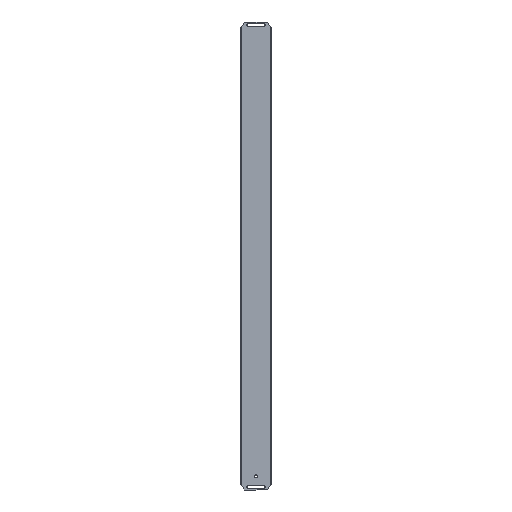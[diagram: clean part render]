
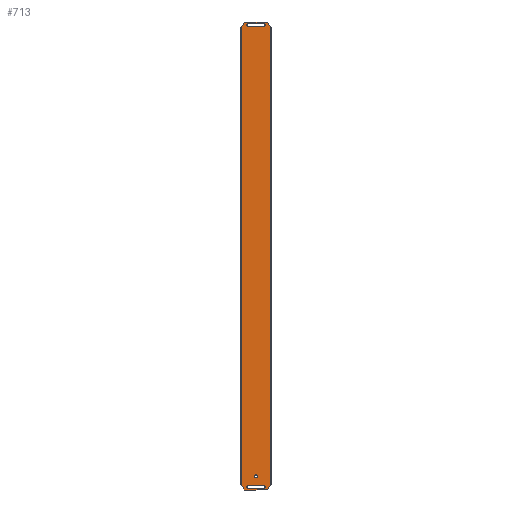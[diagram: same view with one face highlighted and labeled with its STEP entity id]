
A CAD part, front view. The second image highlights one B-rep face of the part: STEP entity #713.
In plain terms, the highlighted planar face has unit normal (0, -1, 0).
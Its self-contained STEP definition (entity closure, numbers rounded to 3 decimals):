
#11 = AXIS2_PLACEMENT_3D ( 'NONE', #730, #1135, #36 ) ;
#13 = LINE ( 'NONE', #422, #156 ) ;
#15 = ORIENTED_EDGE ( 'NONE', *, *, #1277, .T. ) ;
#18 = DIRECTION ( 'NONE',  ( 0., -1., 0. ) ) ;
#25 = VERTEX_POINT ( 'NONE', #399 ) ;
#28 = VECTOR ( 'NONE', #1209, 1000. ) ;
#36 = DIRECTION ( 'NONE',  ( 0., 0., -1. ) ) ;
#47 = VECTOR ( 'NONE', #340, 1000. ) ;
#51 = LINE ( 'NONE', #178, #70 ) ;
#53 = VERTEX_POINT ( 'NONE', #922 ) ;
#62 = ORIENTED_EDGE ( 'NONE', *, *, #666, .T. ) ;
#64 = LINE ( 'NONE', #887, #508 ) ;
#70 = VECTOR ( 'NONE', #587, 1000. ) ;
#79 = CARTESIAN_POINT ( 'NONE',  ( -15.55, -1.2, 501. ) ) ;
#93 = CIRCLE ( 'NONE', #681, 3.25 ) ;
#97 = CARTESIAN_POINT ( 'NONE',  ( 1.2, -1.2, -480.25 ) ) ;
#99 = LINE ( 'NONE', #79, #785 ) ;
#109 = DIRECTION ( 'NONE',  ( -1., 0., 0. ) ) ;
#112 = EDGE_CURVE ( 'NONE', #612, #700, #1111, .T. ) ;
#113 = CIRCLE ( 'NONE', #863, 3.25 ) ;
#132 = CARTESIAN_POINT ( 'NONE',  ( -23.745, -1.2, 510.25 ) ) ;
#139 = ORIENTED_EDGE ( 'NONE', *, *, #607, .T. ) ;
#154 = EDGE_CURVE ( 'NONE', #1206, #53, #760, .T. ) ;
#156 = VECTOR ( 'NONE', #1040, 1000. ) ;
#171 = EDGE_CURVE ( 'NONE', #1133, #571, #963, .T. ) ;
#172 = EDGE_CURVE ( 'NONE', #378, #1206, #948, .T. ) ;
#178 = CARTESIAN_POINT ( 'NONE',  ( 32.3, -1.2, -499.781 ) ) ;
#184 = CARTESIAN_POINT ( 'NONE',  ( 17.95, -1.2, -501. ) ) ;
#185 = AXIS2_PLACEMENT_3D ( 'NONE', #477, #661, #674 ) ;
#188 = CARTESIAN_POINT ( 'NONE',  ( -15.55, -1.2, -507.5 ) ) ;
#189 = LINE ( 'NONE', #698, #28 ) ;
#190 = ORIENTED_EDGE ( 'NONE', *, *, #428, .F. ) ;
#192 = VERTEX_POINT ( 'NONE', #269 ) ;
#202 = AXIS2_PLACEMENT_3D ( 'NONE', #652, #739, #1258 ) ;
#209 = AXIS2_PLACEMENT_3D ( 'NONE', #753, #18, #350 ) ;
#214 = CARTESIAN_POINT ( 'NONE',  ( -29.9, -1.2, -510.25 ) ) ;
#221 = VERTEX_POINT ( 'NONE', #574 ) ;
#223 = FACE_OUTER_BOUND ( 'NONE', #290, .T. ) ;
#241 = CARTESIAN_POINT ( 'NONE',  ( -29.9, -1.2, -499.781 ) ) ;
#244 = CARTESIAN_POINT ( 'NONE',  ( 32.3, -1.2, 499.781 ) ) ;
#254 = VECTOR ( 'NONE', #109, 1000. ) ;
#269 = CARTESIAN_POINT ( 'NONE',  ( 1.2, -1.2, -483.5 ) ) ;
#271 = ORIENTED_EDGE ( 'NONE', *, *, #1117, .T. ) ;
#290 = EDGE_LOOP ( 'NONE', ( #1068, #302, #314, #877, #575, #664, #190, #501 ) ) ;
#293 = VECTOR ( 'NONE', #626, 1000. ) ;
#302 = ORIENTED_EDGE ( 'NONE', *, *, #171, .T. ) ;
#310 = FACE_BOUND ( 'NONE', #789, .T. ) ;
#314 = ORIENTED_EDGE ( 'NONE', *, *, #822, .F. ) ;
#330 = EDGE_CURVE ( 'NONE', #1133, #400, #64, .T. ) ;
#340 = DIRECTION ( 'NONE',  ( -0.507, 0., 0.862 ) ) ;
#344 = LINE ( 'NONE', #244, #910 ) ;
#350 = DIRECTION ( 'NONE',  ( 0., 0., -1. ) ) ;
#362 = ORIENTED_EDGE ( 'NONE', *, *, #731, .F. ) ;
#363 = VECTOR ( 'NONE', #851, 1000. ) ;
#378 = VERTEX_POINT ( 'NONE', #456 ) ;
#389 = CARTESIAN_POINT ( 'NONE',  ( 26.145, -1.2, -510.25 ) ) ;
#399 = CARTESIAN_POINT ( 'NONE',  ( 32.3, -1.2, 499.781 ) ) ;
#400 = VERTEX_POINT ( 'NONE', #732 ) ;
#422 = CARTESIAN_POINT ( 'NONE',  ( -29.9, -1.2, -499.781 ) ) ;
#426 = DIRECTION ( 'NONE',  ( 0., 0., 1. ) ) ;
#428 = EDGE_CURVE ( 'NONE', #25, #1257, #344, .T. ) ;
#432 = LINE ( 'NONE', #545, #47 ) ;
#456 = CARTESIAN_POINT ( 'NONE',  ( -15.55, -1.2, 507.5 ) ) ;
#477 = CARTESIAN_POINT ( 'NONE',  ( 17.95, -1.2, 504.25 ) ) ;
#485 = CIRCLE ( 'NONE', #202, 3.25 ) ;
#490 = CARTESIAN_POINT ( 'NONE',  ( 32.3, -1.2, -499.781 ) ) ;
#501 = ORIENTED_EDGE ( 'NONE', *, *, #1082, .T. ) ;
#503 = CARTESIAN_POINT ( 'NONE',  ( -15.55, -1.2, -504.25 ) ) ;
#508 = VECTOR ( 'NONE', #711, 1000. ) ;
#516 = EDGE_LOOP ( 'NONE', ( #62, #15, #271, #775 ) ) ;
#517 = DIRECTION ( 'NONE',  ( -1., 0., 0. ) ) ;
#523 = PLANE ( 'NONE',  #209 ) ;
#525 = AXIS2_PLACEMENT_3D ( 'NONE', #97, #1138, #646 ) ;
#528 = DIRECTION ( 'NONE',  ( 0.507, 0., -0.862 ) ) ;
#540 = LINE ( 'NONE', #214, #293 ) ;
#545 = CARTESIAN_POINT ( 'NONE',  ( 32.3, -1.2, 499.781 ) ) ;
#557 = DIRECTION ( 'NONE',  ( 0., 0., -1. ) ) ;
#571 = VERTEX_POINT ( 'NONE', #1289 ) ;
#574 = CARTESIAN_POINT ( 'NONE',  ( -29.9, -1.2, -499.781 ) ) ;
#575 = ORIENTED_EDGE ( 'NONE', *, *, #962, .F. ) ;
#587 = DIRECTION ( 'NONE',  ( 0.507, 0., 0.862 ) ) ;
#598 = CARTESIAN_POINT ( 'NONE',  ( -23.745, -1.2, -510.25 ) ) ;
#600 = EDGE_LOOP ( 'NONE', ( #362, #605 ) ) ;
#605 = ORIENTED_EDGE ( 'NONE', *, *, #946, .F. ) ;
#607 = EDGE_CURVE ( 'NONE', #53, #1075, #99, .T. ) ;
#612 = VERTEX_POINT ( 'NONE', #622 ) ;
#622 = CARTESIAN_POINT ( 'NONE',  ( 17.95, -1.2, -507.5 ) ) ;
#626 = DIRECTION ( 'NONE',  ( -1., 0., 0. ) ) ;
#639 = LINE ( 'NONE', #241, #1031 ) ;
#646 = DIRECTION ( 'NONE',  ( 0., 0., -1. ) ) ;
#652 = CARTESIAN_POINT ( 'NONE',  ( 17.95, -1.2, -504.25 ) ) ;
#661 = DIRECTION ( 'NONE',  ( 0., 1., 0. ) ) ;
#664 = ORIENTED_EDGE ( 'NONE', *, *, #1243, .T. ) ;
#666 = EDGE_CURVE ( 'NONE', #700, #1101, #93, .T. ) ;
#674 = DIRECTION ( 'NONE',  ( 0., 0., 1. ) ) ;
#679 = VERTEX_POINT ( 'NONE', #598 ) ;
#681 = AXIS2_PLACEMENT_3D ( 'NONE', #503, #895, #913 ) ;
#686 = CARTESIAN_POINT ( 'NONE',  ( 17.95, -1.2, 507.5 ) ) ;
#698 = CARTESIAN_POINT ( 'NONE',  ( -15.55, -1.2, -501. ) ) ;
#700 = VERTEX_POINT ( 'NONE', #1114 ) ;
#711 = DIRECTION ( 'NONE',  ( 1., 0., 0. ) ) ;
#713 = ADVANCED_FACE ( 'NONE', ( #1223, #310, #716, #223 ), #523, .T. ) ;
#716 = FACE_BOUND ( 'NONE', #516, .T. ) ;
#730 = CARTESIAN_POINT ( 'NONE',  ( 1.2, -1.2, -480.25 ) ) ;
#731 = EDGE_CURVE ( 'NONE', #1199, #192, #1292, .T. ) ;
#732 = CARTESIAN_POINT ( 'NONE',  ( 26.145, -1.2, 510.25 ) ) ;
#739 = DIRECTION ( 'NONE',  ( 0., 1., 0. ) ) ;
#753 = CARTESIAN_POINT ( 'NONE',  ( 0., -1.2, 0. ) ) ;
#760 = CIRCLE ( 'NONE', #185, 3.25 ) ;
#772 = CARTESIAN_POINT ( 'NONE',  ( -29.9, -1.2, 499.781 ) ) ;
#775 = ORIENTED_EDGE ( 'NONE', *, *, #112, .T. ) ;
#785 = VECTOR ( 'NONE', #517, 1000. ) ;
#789 = EDGE_LOOP ( 'NONE', ( #1013, #987, #1211, #139 ) ) ;
#822 = EDGE_CURVE ( 'NONE', #221, #571, #13, .T. ) ;
#826 = CARTESIAN_POINT ( 'NONE',  ( -15.55, -1.2, 504.25 ) ) ;
#835 = DIRECTION ( 'NONE',  ( 0., 1., 0. ) ) ;
#849 = CARTESIAN_POINT ( 'NONE',  ( -15.55, -1.2, -501. ) ) ;
#851 = DIRECTION ( 'NONE',  ( -0.507, 0., -0.862 ) ) ;
#863 = AXIS2_PLACEMENT_3D ( 'NONE', #826, #835, #426 ) ;
#877 = ORIENTED_EDGE ( 'NONE', *, *, #921, .T. ) ;
#887 = CARTESIAN_POINT ( 'NONE',  ( -29.9, -1.2, 510.25 ) ) ;
#895 = DIRECTION ( 'NONE',  ( 0., 1., 0. ) ) ;
#910 = VECTOR ( 'NONE', #557, 1000. ) ;
#913 = DIRECTION ( 'NONE',  ( 0., 0., 1. ) ) ;
#921 = EDGE_CURVE ( 'NONE', #221, #679, #639, .T. ) ;
#922 = CARTESIAN_POINT ( 'NONE',  ( 17.95, -1.2, 501. ) ) ;
#946 = EDGE_CURVE ( 'NONE', #192, #1199, #1032, .T. ) ;
#948 = LINE ( 'NONE', #1273, #1103 ) ;
#956 = DIRECTION ( 'NONE',  ( 1., 0., 0. ) ) ;
#962 = EDGE_CURVE ( 'NONE', #1184, #679, #540, .T. ) ;
#963 = LINE ( 'NONE', #772, #363 ) ;
#987 = ORIENTED_EDGE ( 'NONE', *, *, #172, .T. ) ;
#1013 = ORIENTED_EDGE ( 'NONE', *, *, #1016, .T. ) ;
#1016 = EDGE_CURVE ( 'NONE', #1075, #378, #113, .T. ) ;
#1031 = VECTOR ( 'NONE', #528, 1000. ) ;
#1032 = CIRCLE ( 'NONE', #525, 3.25 ) ;
#1040 = DIRECTION ( 'NONE',  ( 0., 0., 1. ) ) ;
#1068 = ORIENTED_EDGE ( 'NONE', *, *, #330, .F. ) ;
#1075 = VERTEX_POINT ( 'NONE', #1263 ) ;
#1082 = EDGE_CURVE ( 'NONE', #25, #400, #432, .T. ) ;
#1101 = VERTEX_POINT ( 'NONE', #849 ) ;
#1103 = VECTOR ( 'NONE', #956, 1000. ) ;
#1111 = LINE ( 'NONE', #188, #254 ) ;
#1114 = CARTESIAN_POINT ( 'NONE',  ( -15.55, -1.2, -507.5 ) ) ;
#1117 = EDGE_CURVE ( 'NONE', #1240, #612, #485, .T. ) ;
#1133 = VERTEX_POINT ( 'NONE', #132 ) ;
#1135 = DIRECTION ( 'NONE',  ( 0., -1., 0. ) ) ;
#1138 = DIRECTION ( 'NONE',  ( 0., -1., 0. ) ) ;
#1184 = VERTEX_POINT ( 'NONE', #389 ) ;
#1199 = VERTEX_POINT ( 'NONE', #1202 ) ;
#1202 = CARTESIAN_POINT ( 'NONE',  ( 1.2, -1.2, -477. ) ) ;
#1206 = VERTEX_POINT ( 'NONE', #686 ) ;
#1209 = DIRECTION ( 'NONE',  ( 1., 0., 0. ) ) ;
#1211 = ORIENTED_EDGE ( 'NONE', *, *, #154, .T. ) ;
#1223 = FACE_BOUND ( 'NONE', #600, .T. ) ;
#1240 = VERTEX_POINT ( 'NONE', #184 ) ;
#1243 = EDGE_CURVE ( 'NONE', #1184, #1257, #51, .T. ) ;
#1257 = VERTEX_POINT ( 'NONE', #490 ) ;
#1258 = DIRECTION ( 'NONE',  ( 0., 0., 1. ) ) ;
#1263 = CARTESIAN_POINT ( 'NONE',  ( -15.55, -1.2, 501. ) ) ;
#1273 = CARTESIAN_POINT ( 'NONE',  ( -15.55, -1.2, 507.5 ) ) ;
#1277 = EDGE_CURVE ( 'NONE', #1101, #1240, #189, .T. ) ;
#1289 = CARTESIAN_POINT ( 'NONE',  ( -29.9, -1.2, 499.781 ) ) ;
#1292 = CIRCLE ( 'NONE', #11, 3.25 ) ;
